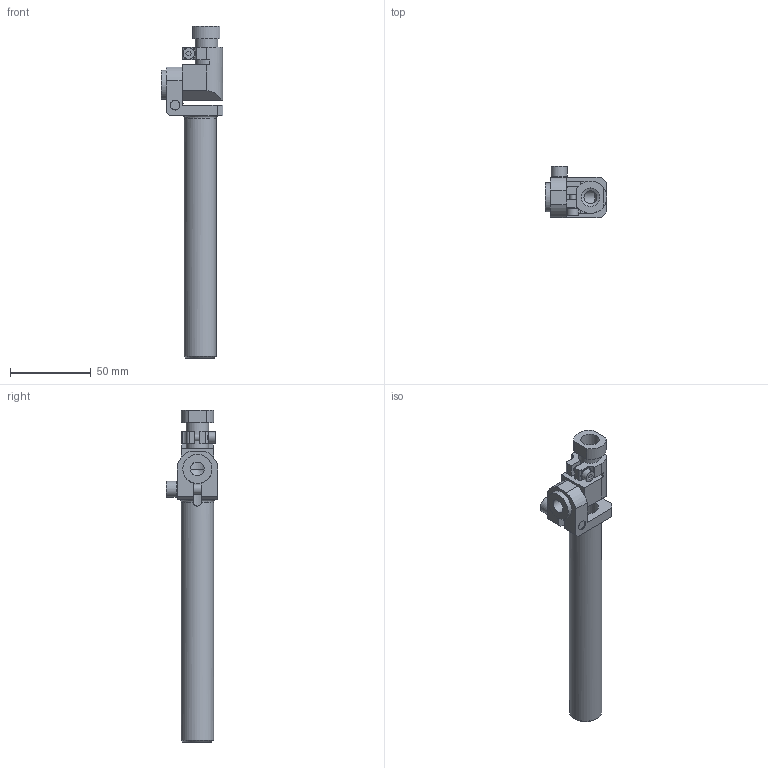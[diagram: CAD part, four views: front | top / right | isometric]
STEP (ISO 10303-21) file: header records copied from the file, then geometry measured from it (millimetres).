
FILE_DESCRIPTION (( 'STEP AP214' ), '1' );
FILE_NAME ('3370.STEP', '2024-06-12T14:03:48', ( '' ), ( '' ), 'SwSTEP 2.0', 'SolidWorks 2022', '' );
FILE_SCHEMA (( 'AUTOMOTIVE_DESIGN' ));
Length unit declared in the file: millimetre
Products named in the file (4): 3369-3370 Part C_3370 Part C; 3369-3370 Body_3370 Body; 3369-3370 Part B_3370 Part B; 3370
Assembly tree (3 placements, depth 2):
  3370
    3369-3370 Body_3370 Body
    3369-3370 Part B_3370 Part B
    3369-3370 Part C_3370 Part C
Bounding box: 38.1 x 31.66 x 205.5 mm (x, y, z)
Volume: 38317.3 mm3; surface area: 31536 mm2
Topology: 8 solids, 8 shells, 112 faces, 275 edges, 181 vertices
Faces by surface type: plane 70, cylinder 36, torus 3, cone 3
Full cylindrical faces by diameter (mm): 3.3 x1, 4 x1, 4.4 x1, 4.5 x1, 5 x1, 6 x2, 6.35 x1, 7 x2, 8 x1, 8.566 x1, 9.85 x1, 10 x1, 11.445 x1, 11.5 x1, 13.9 x2, 14 x1, 16 x1, 18 x2, 20 x1
Entity records: 3514 total; most frequent: CARTESIAN_POINT 710, DIRECTION 539, ORIENTED_EDGE 476, EDGE_CURVE 238, AXIS2_PLACEMENT_3D 193, VERTEX_POINT 172, EDGE_LOOP 160, LINE 153
